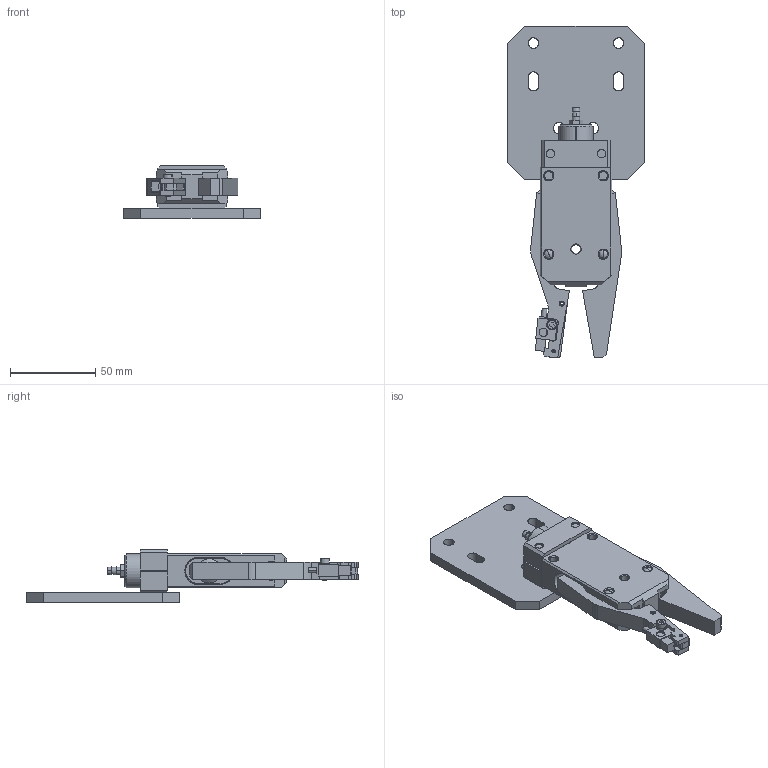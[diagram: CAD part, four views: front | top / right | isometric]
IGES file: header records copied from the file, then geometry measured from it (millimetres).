
Start section: SolidWorks IGES file using analytic representation for surfaces
Global section: file name: E:\EFCKishi\ランナーチャック\IGES\RM-009.IGS; native system: SolidWorks 2006 by SolidWorks Corporation; preprocessor: SolidWorks 2006 by SolidWorks Corporation; author: CAD58; date: 080912.174500; units: millimetre
Bounding box: 80 x 194.96 x 31 mm (x, y, z)
Surface area: 56824.3 mm2 (no closed solid volume)
Topology: 0 solids, 0 shells, 556 faces, 7934 edges, 7924 vertices
Faces by surface type: bspline 279, revolution 277
